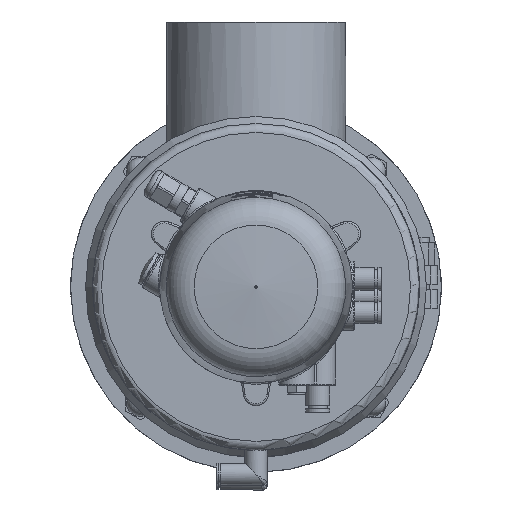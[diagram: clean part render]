
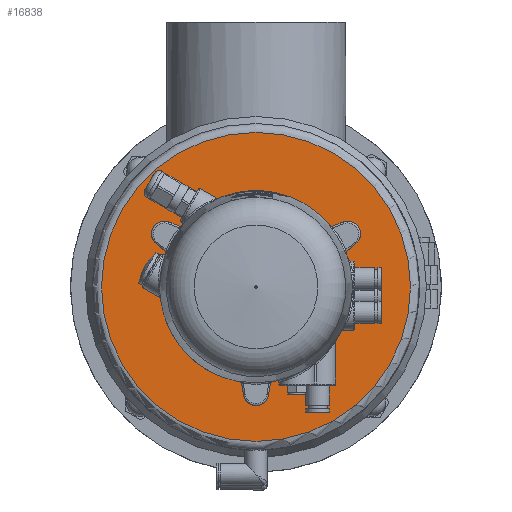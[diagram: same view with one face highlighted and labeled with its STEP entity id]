
A CAD part, front view. The second image highlights one B-rep face of the part: STEP entity #16838.
In plain terms, the highlighted planar face has unit normal (0, -1, 0) as drawn and (0, 1, 0) by its records, which use the part's own axes.
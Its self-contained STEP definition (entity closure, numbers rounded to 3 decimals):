
#245 = AXIS2_PLACEMENT_3D ( 'NONE', #10551, #30845, #50836 ) ;
#1123 = DIRECTION ( 'NONE',  ( 0., 0., 1. ) ) ;
#1958 = EDGE_CURVE ( 'NONE', #18256, #18256, #11245, .T. ) ;
#2145 = AXIS2_PLACEMENT_3D ( 'NONE', #64652, #50565, #1123 ) ;
#2477 = DIRECTION ( 'NONE',  ( 0., 1., 0. ) ) ;
#7999 = DIRECTION ( 'NONE',  ( 0., 0., -1. ) ) ;
#8806 = CARTESIAN_POINT ( 'NONE',  ( 0., 298., 0. ) ) ;
#10551 = CARTESIAN_POINT ( 'NONE',  ( 0., 298., 0. ) ) ;
#11245 = CIRCLE ( 'NONE', #50974, 10. ) ;
#13262 = CARTESIAN_POINT ( 'NONE',  ( -92.5, 298., 0. ) ) ;
#13450 = CARTESIAN_POINT ( 'NONE',  ( 0., 298., 19.6 ) ) ;
#15932 = EDGE_LOOP ( 'NONE', ( #63201 ) ) ;
#16246 = CARTESIAN_POINT ( 'NONE',  ( 0., 298., -15.4 ) ) ;
#16838 = ADVANCED_FACE ( 'NONE', ( #62997, #53534, #52875, #19433 ), #53206, .F. ) ;
#18256 = VERTEX_POINT ( 'NONE', #49017 ) ;
#18633 = DIRECTION ( 'NONE',  ( 0., -1., 0. ) ) ;
#19433 = FACE_BOUND ( 'NONE', #36865, .T. ) ;
#19455 = DIRECTION ( 'NONE',  ( 0., 0., 1. ) ) ;
#23388 = DIRECTION ( 'NONE',  ( 0., -1., 0. ) ) ;
#27968 = AXIS2_PLACEMENT_3D ( 'NONE', #13262, #23388, #7999 ) ;
#27978 = ORIENTED_EDGE ( 'NONE', *, *, #1958, .T. ) ;
#28477 = VERTEX_POINT ( 'NONE', #48449 ) ;
#30845 = DIRECTION ( 'NONE',  ( 0., 1., 0. ) ) ;
#31601 = ORIENTED_EDGE ( 'NONE', *, *, #34793, .F. ) ;
#34793 = EDGE_CURVE ( 'NONE', #46393, #46393, #61713, .T. ) ;
#35597 = CIRCLE ( 'NONE', #2145, 2.1 ) ;
#36865 = EDGE_LOOP ( 'NONE', ( #27978 ) ) ;
#41987 = CIRCLE ( 'NONE', #245, 87.5 ) ;
#46004 = AXIS2_PLACEMENT_3D ( 'NONE', #53885, #2477, #19455 ) ;
#46393 = VERTEX_POINT ( 'NONE', #16246 ) ;
#47025 = EDGE_LOOP ( 'NONE', ( #54701 ) ) ;
#48449 = CARTESIAN_POINT ( 'NONE',  ( 0., 298., -87.5 ) ) ;
#49017 = CARTESIAN_POINT ( 'NONE',  ( 0., 298., -10. ) ) ;
#50565 = DIRECTION ( 'NONE',  ( 0., 1., 0. ) ) ;
#50836 = DIRECTION ( 'NONE',  ( 0., 0., -1. ) ) ;
#50974 = AXIS2_PLACEMENT_3D ( 'NONE', #8806, #18633, #64466 ) ;
#52750 = VERTEX_POINT ( 'NONE', #13450 ) ;
#52875 = FACE_OUTER_BOUND ( 'NONE', #47025, .T. ) ;
#53206 = PLANE ( 'NONE',  #27968 ) ;
#53534 = FACE_BOUND ( 'NONE', #15932, .T. ) ;
#53885 = CARTESIAN_POINT ( 'NONE',  ( 0., 298., -17.5 ) ) ;
#54701 = ORIENTED_EDGE ( 'NONE', *, *, #62129, .T. ) ;
#58242 = EDGE_LOOP ( 'NONE', ( #31601 ) ) ;
#59284 = EDGE_CURVE ( 'NONE', #52750, #52750, #35597, .T. ) ;
#61713 = CIRCLE ( 'NONE', #46004, 2.1 ) ;
#62129 = EDGE_CURVE ( 'NONE', #28477, #28477, #41987, .T. ) ;
#62997 = FACE_BOUND ( 'NONE', #58242, .T. ) ;
#63201 = ORIENTED_EDGE ( 'NONE', *, *, #59284, .F. ) ;
#64466 = DIRECTION ( 'NONE',  ( 0., 0., -1. ) ) ;
#64652 = CARTESIAN_POINT ( 'NONE',  ( 0., 298., 17.5 ) ) ;
